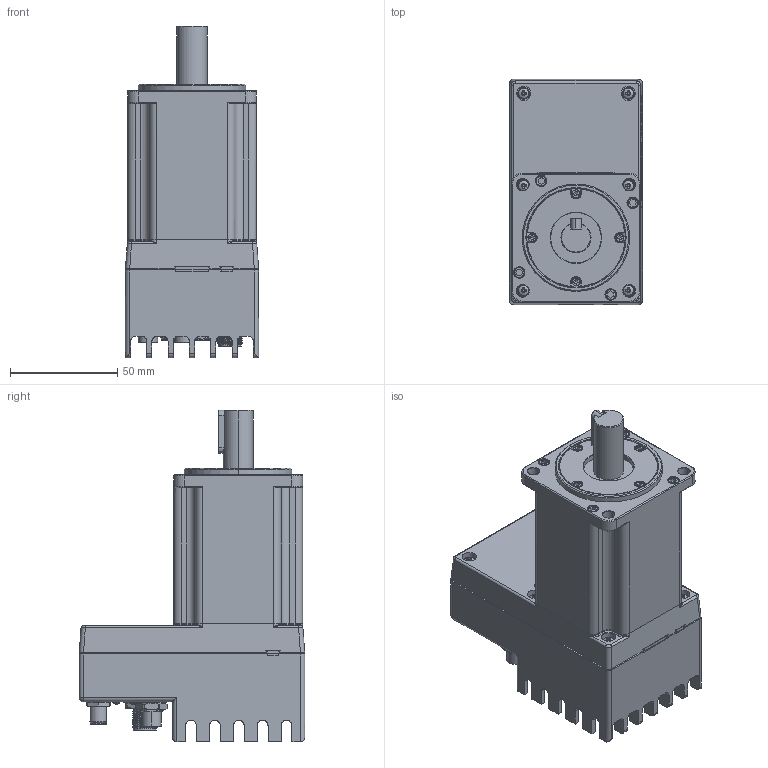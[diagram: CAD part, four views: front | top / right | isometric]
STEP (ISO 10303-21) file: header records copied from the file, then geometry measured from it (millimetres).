
FILE_DESCRIPTION (( 'STEP AP214' ), '1' );
FILE_NAME ('IM1-60MX3X5XX20000.STEP', '2024-02-12T15:08:56', ( '' ), ( '' ), 'SwSTEP 2.0', 'SolidWorks 2020', '' );
FILE_SCHEMA (( 'AUTOMOTIVE_DESIGN' ));
Length unit declared in the file: millimetre
Products named in the file (1): IM1-60MX3X5XX20000
Bounding box: 62 x 105 x 154.3 mm (x, y, z)
Surface area: 61448.3 mm2 (no closed solid volume)
Topology: 0 solids, 81 shells, 1122 faces, 4545 edges, 3465 vertices
Faces by surface type: plane 529, cylinder 362, cone 142, torus 40, bspline 36, sphere 13
Full cylindrical faces by diameter (mm): 0.5 x12, 1.5 x4, 1.6 x1, 6.6 x6, 7 x2, 9.9 x1, 10.7 x2, 11 x2, 14 x2, 20 x1
Entity records: 69818 total; most frequent: CARTESIAN_POINT 20917, ORIENTED_EDGE 7531, DIRECTION 7300, EDGE_CURVE 4459, VERTEX_POINT 3457, AXIS2_PLACEMENT_3D 2669, VECTOR 1962, LINE 1962
